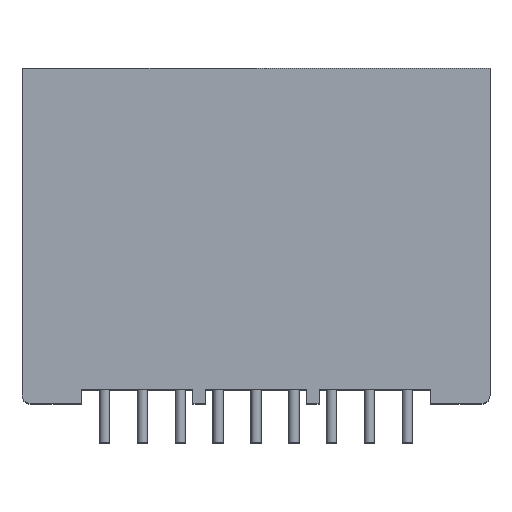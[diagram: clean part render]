
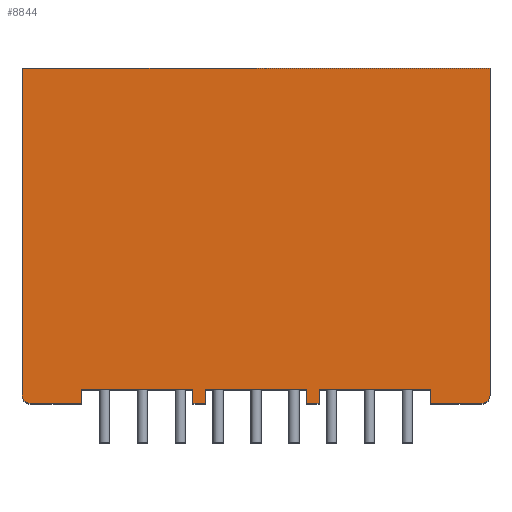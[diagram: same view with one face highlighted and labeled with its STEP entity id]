
A CAD part, top view. The second image highlights one B-rep face of the part: STEP entity #8844.
In plain terms, the highlighted planar face has unit normal (0, 0, 1).
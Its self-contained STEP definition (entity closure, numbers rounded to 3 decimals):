
#58=DIRECTION('',(-1.,0.,0.));
#59=VECTOR('',#58,3.98);
#60=CARTESIAN_POINT('',(19.933,12.913,61.128));
#61=LINE('',#60,#59);
#66=DIRECTION('',(-1.,0.,0.));
#67=VECTOR('',#66,3.6);
#68=CARTESIAN_POINT('',(23.983,12.913,61.128));
#69=LINE('',#68,#67);
#74=DIRECTION('',(-1.,0.,0.));
#75=VECTOR('',#74,3.98);
#76=CARTESIAN_POINT('',(28.413,12.913,61.128));
#77=LINE('',#76,#75);
#752=DIRECTION('',(0.,-1.,0.));
#753=VECTOR('',#752,11.65);
#754=CARTESIAN_POINT('',(30.533,24.363,61.128));
#755=LINE('',#754,#753);
#788=DIRECTION('',(-1.,0.,0.));
#789=VECTOR('',#788,16.7);
#790=CARTESIAN_POINT('',(30.533,24.363,61.128));
#791=LINE('',#790,#789);
#792=CARTESIAN_POINT('',(30.233,12.713,61.128));
#793=DIRECTION('',(0.,0.,1.));
#794=DIRECTION('',(0.,-1.,0.));
#795=AXIS2_PLACEMENT_3D('',#792,#793,#794);
#797=DIRECTION('',(0.,-1.,0.));
#798=VECTOR('',#797,0.5);
#799=CARTESIAN_POINT('',(28.413,12.913,61.128));
#800=LINE('',#799,#798);
#801=DIRECTION('',(1.,0.,0.));
#802=VECTOR('',#801,0.45);
#803=CARTESIAN_POINT('',(19.933,12.413,61.128));
#804=LINE('',#803,#802);
#805=CARTESIAN_POINT('',(14.133,12.713,61.128));
#806=DIRECTION('',(0.,0.,1.));
#807=DIRECTION('',(-1.,0.,0.));
#808=AXIS2_PLACEMENT_3D('',#805,#806,#807);
#826=DIRECTION('',(-1.,0.,0.));
#827=VECTOR('',#826,1.82);
#828=CARTESIAN_POINT('',(30.233,12.413,61.128));
#829=LINE('',#828,#827);
#1370=DIRECTION('',(0.,-1.,0.));
#1371=VECTOR('',#1370,0.5);
#1372=CARTESIAN_POINT('',(24.433,12.913,61.128));
#1373=LINE('',#1372,#1371);
#1378=DIRECTION('',(-1.,0.,0.));
#1379=VECTOR('',#1378,0.45);
#1380=CARTESIAN_POINT('',(24.433,12.413,61.128));
#1381=LINE('',#1380,#1379);
#1402=DIRECTION('',(0.,1.,0.));
#1403=VECTOR('',#1402,0.5);
#1404=CARTESIAN_POINT('',(23.983,12.413,61.128));
#1405=LINE('',#1404,#1403);
#1418=DIRECTION('',(0.,-1.,0.));
#1419=VECTOR('',#1418,0.5);
#1420=CARTESIAN_POINT('',(20.383,12.913,61.128));
#1421=LINE('',#1420,#1419);
#1430=DIRECTION('',(0.,1.,0.));
#1431=VECTOR('',#1430,0.5);
#1432=CARTESIAN_POINT('',(19.933,12.413,61.128));
#1433=LINE('',#1432,#1431);
#1446=DIRECTION('',(0.,-1.,0.));
#1447=VECTOR('',#1446,0.5);
#1448=CARTESIAN_POINT('',(15.953,12.913,61.128));
#1449=LINE('',#1448,#1447);
#1980=DIRECTION('',(0.,1.,0.));
#1981=VECTOR('',#1980,11.65);
#1982=CARTESIAN_POINT('',(13.833,12.713,61.128));
#1983=LINE('',#1982,#1981);
#4280=DIRECTION('',(-1.,0.,0.));
#4281=VECTOR('',#4280,1.82);
#4282=CARTESIAN_POINT('',(15.953,12.413,61.128));
#4283=LINE('',#4282,#4281);
#6160=CARTESIAN_POINT('',(15.953,12.413,61.128));
#6161=VERTEX_POINT('',#6160);
#6162=CARTESIAN_POINT('',(15.953,12.913,61.128));
#6163=VERTEX_POINT('',#6162);
#6424=CARTESIAN_POINT('',(14.133,12.413,61.128));
#6425=VERTEX_POINT('',#6424);
#6442=CARTESIAN_POINT('',(13.833,24.363,61.128));
#6443=VERTEX_POINT('',#6442);
#6444=CARTESIAN_POINT('',(13.833,12.713,61.128));
#6445=VERTEX_POINT('',#6444);
#6668=CARTESIAN_POINT('',(24.433,12.913,61.128));
#6669=CARTESIAN_POINT('',(24.433,12.413,61.128));
#6670=VERTEX_POINT('',#6668);
#6671=VERTEX_POINT('',#6669);
#6792=CARTESIAN_POINT('',(30.533,24.363,61.128));
#6793=CARTESIAN_POINT('',(30.533,12.713,61.128));
#6794=VERTEX_POINT('',#6792);
#6795=VERTEX_POINT('',#6793);
#6796=CARTESIAN_POINT('',(30.233,12.413,61.128));
#6797=VERTEX_POINT('',#6796);
#6798=CARTESIAN_POINT('',(28.413,12.413,61.128));
#6799=VERTEX_POINT('',#6798);
#6800=CARTESIAN_POINT('',(28.413,12.913,61.128));
#6801=VERTEX_POINT('',#6800);
#6802=CARTESIAN_POINT('',(23.983,12.413,61.128));
#6803=VERTEX_POINT('',#6802);
#6804=CARTESIAN_POINT('',(23.983,12.913,61.128));
#6805=VERTEX_POINT('',#6804);
#6806=CARTESIAN_POINT('',(20.383,12.913,61.128));
#6807=VERTEX_POINT('',#6806);
#6808=CARTESIAN_POINT('',(20.383,12.413,61.128));
#6809=VERTEX_POINT('',#6808);
#6810=CARTESIAN_POINT('',(19.933,12.413,61.128));
#6811=VERTEX_POINT('',#6810);
#6812=CARTESIAN_POINT('',(19.933,12.913,61.128));
#6813=VERTEX_POINT('',#6812);
#8806=CARTESIAN_POINT('',(30.133,21.363,61.128));
#8807=DIRECTION('',(0.,0.,1.));
#8808=DIRECTION('',(-1.,0.,0.));
#8809=AXIS2_PLACEMENT_3D('',#8806,#8807,#8808);
#8810=PLANE('',#8809);
#8811=ORIENTED_EDGE('',*,*,#8757,.F.);
#8812=ORIENTED_EDGE('',*,*,#8746,.T.);
#8814=ORIENTED_EDGE('',*,*,#8813,.F.);
#8816=ORIENTED_EDGE('',*,*,#8815,.T.);
#8818=ORIENTED_EDGE('',*,*,#8817,.F.);
#8819=ORIENTED_EDGE('',*,*,#8179,.T.);
#8821=ORIENTED_EDGE('',*,*,#8820,.T.);
#8823=ORIENTED_EDGE('',*,*,#8822,.T.);
#8825=ORIENTED_EDGE('',*,*,#8824,.T.);
#8826=ORIENTED_EDGE('',*,*,#8171,.T.);
#8828=ORIENTED_EDGE('',*,*,#8827,.T.);
#8830=ORIENTED_EDGE('',*,*,#8829,.F.);
#8832=ORIENTED_EDGE('',*,*,#8831,.T.);
#8833=ORIENTED_EDGE('',*,*,#8163,.T.);
#8835=ORIENTED_EDGE('',*,*,#8834,.T.);
#8837=ORIENTED_EDGE('',*,*,#8836,.T.);
#8839=ORIENTED_EDGE('',*,*,#8838,.F.);
#8841=ORIENTED_EDGE('',*,*,#8840,.T.);
#8842=EDGE_LOOP('',(#8811,#8812,#8814,#8816,#8818,#8819,#8821,#8823,#8825,#8826,
#8828,#8830,#8832,#8833,#8835,#8837,#8839,#8841));
#8843=FACE_OUTER_BOUND('',#8842,.F.);
#8844=ADVANCED_FACE('',(#8843),#8810,.T.);
#796=CIRCLE('',#795,0.3);
#809=CIRCLE('',#808,0.3);
#8163=EDGE_CURVE('',#6813,#6163,#61,.T.);
#8171=EDGE_CURVE('',#6805,#6807,#69,.T.);
#8179=EDGE_CURVE('',#6801,#6670,#77,.T.);
#8746=EDGE_CURVE('',#6794,#6795,#755,.T.);
#8757=EDGE_CURVE('',#6794,#6443,#791,.T.);
#8813=EDGE_CURVE('',#6797,#6795,#796,.T.);
#8815=EDGE_CURVE('',#6797,#6799,#829,.T.);
#8817=EDGE_CURVE('',#6801,#6799,#800,.T.);
#8820=EDGE_CURVE('',#6670,#6671,#1373,.T.);
#8822=EDGE_CURVE('',#6671,#6803,#1381,.T.);
#8824=EDGE_CURVE('',#6803,#6805,#1405,.T.);
#8827=EDGE_CURVE('',#6807,#6809,#1421,.T.);
#8829=EDGE_CURVE('',#6811,#6809,#804,.T.);
#8831=EDGE_CURVE('',#6811,#6813,#1433,.T.);
#8834=EDGE_CURVE('',#6163,#6161,#1449,.T.);
#8836=EDGE_CURVE('',#6161,#6425,#4283,.T.);
#8838=EDGE_CURVE('',#6445,#6425,#809,.T.);
#8840=EDGE_CURVE('',#6445,#6443,#1983,.T.);
